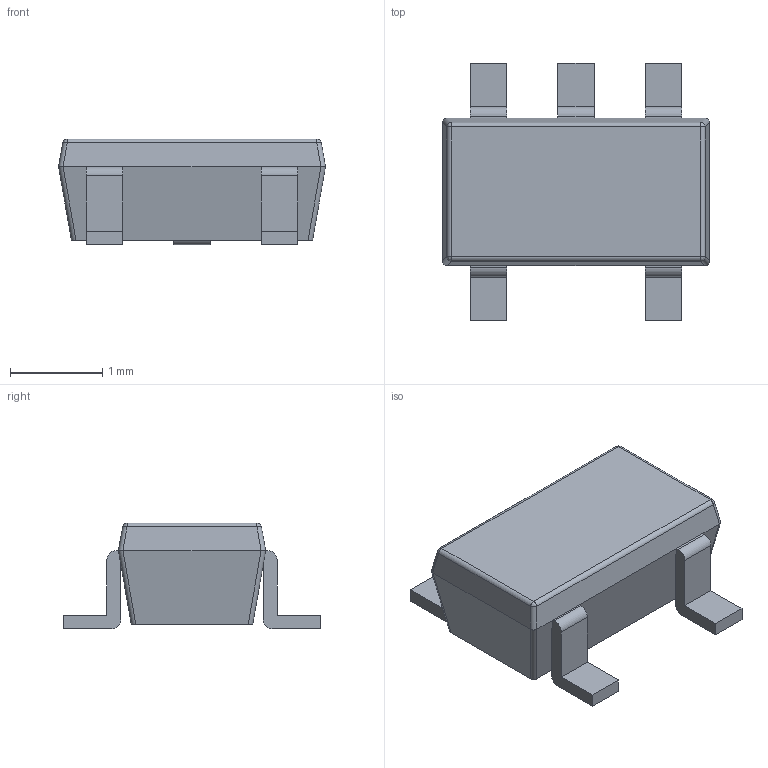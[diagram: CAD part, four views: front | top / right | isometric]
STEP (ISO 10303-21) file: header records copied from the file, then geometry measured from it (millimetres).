
FILE_DESCRIPTION (( 'STEP AP214' ), '1' );
FILE_NAME ('(ePartFinder)_HGPRDT&HGDVST_SOT-23-5.STEP', '2017-04-25T09:38:07', ( 'QNDadmin' ), ( 'Hewlett-Packard Company' ), 'SwSTEP 2.0', 'SolidWorks 2014', '' );
FILE_SCHEMA (( 'AUTOMOTIVE_DESIGN' ));
Length unit declared in the file: millimetre
Products named in the file (1): (ePartFinder)_HGPRDT&HGDVST_SOT-23-5
Bounding box: 2.9 x 2.8 x 1.15 mm (x, y, z)
Volume: 4.9 mm3; surface area: 23.9 mm2
Topology: 1 solids, 1 shells, 76 faces, 192 edges, 118 vertices
Faces by surface type: plane 50, cylinder 22, bspline 4
Entity records: 3142 total; most frequent: CARTESIAN_POINT 471, ORIENTED_EDGE 384, DIRECTION 362, EDGE_CURVE 192, VECTOR 152, LINE 152, VERTEX_POINT 118, AXIS2_PLACEMENT_3D 105
